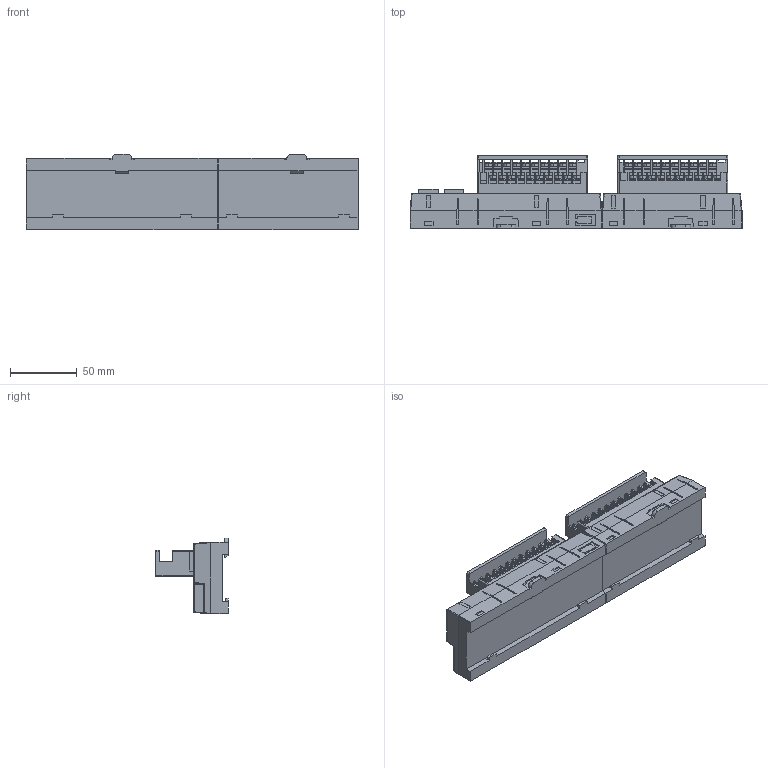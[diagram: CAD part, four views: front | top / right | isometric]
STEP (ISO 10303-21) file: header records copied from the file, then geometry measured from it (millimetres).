
FILE_DESCRIPTION (( 'STEP AP203' ), '1' );
FILE_NAME ('RG-CU-32_221114.STEP', '2025-11-19T06:26:20', ( '' ), ( '' ), 'SwSTEP 2.0', 'SolidWorks 2022', '' );
FILE_SCHEMA (( 'CONFIG_CONTROL_DESIGN' ));
Length unit declared in the file: millimetre
Products named in the file (1): RG-CU-32_221114
Bounding box: 249.22 x 54.3 x 57.01 mm (x, y, z)
Volume: 358548.1 mm3; surface area: 79001.6 mm2
Topology: 1 solids, 1 shells, 2070 faces, 5903 edges, 3857 vertices
Faces by surface type: plane 1712, cylinder 233, bspline 114, sphere 11
Entity records: 68530 total; most frequent: CARTESIAN_POINT 14890, ORIENTED_EDGE 11784, DIRECTION 10138, EDGE_CURVE 5892, LINE 5024, VECTOR 5024, VERTEX_POINT 3857, AXIS2_PLACEMENT_3D 2557
